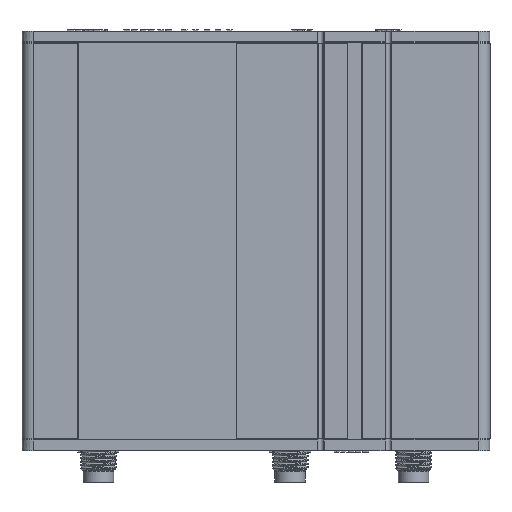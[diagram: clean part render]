
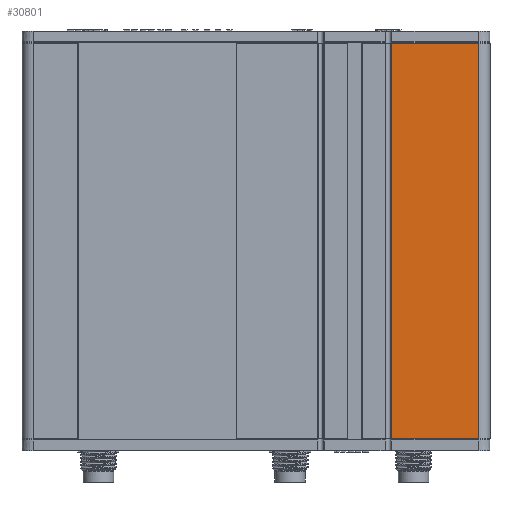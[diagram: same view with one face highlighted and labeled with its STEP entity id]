
A CAD part, front view. The second image highlights one B-rep face of the part: STEP entity #30801.
In plain terms, the highlighted planar face has unit normal (0, -1, 0).
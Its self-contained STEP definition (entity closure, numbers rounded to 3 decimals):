
#2633 = CARTESIAN_POINT ( 'NONE',  ( 65.592, 0., 70.2 ) ) ;
#3630 = PLANE ( 'NONE',  #27765 ) ;
#4103 = DIRECTION ( 'NONE',  ( 0., 0., 1. ) ) ;
#8067 = LINE ( 'NONE', #14534, #26972 ) ;
#9194 = ORIENTED_EDGE ( 'NONE', *, *, #39326, .F. ) ;
#13946 = CARTESIAN_POINT ( 'NONE',  ( 65.592, 0., 0. ) ) ;
#14534 = CARTESIAN_POINT ( 'NONE',  ( 65.592, 0., 70.2 ) ) ;
#14745 = CARTESIAN_POINT ( 'NONE',  ( 60.25, 0., 70.2 ) ) ;
#17039 = EDGE_CURVE ( 'NONE', #60045, #69469, #39321, .T. ) ;
#17741 = EDGE_CURVE ( 'NONE', #69469, #51138, #56352, .T. ) ;
#25323 = VECTOR ( 'NONE', #56357, 1000. ) ;
#25420 = CARTESIAN_POINT ( 'NONE',  ( 81., 0., 70.2 ) ) ;
#26486 = EDGE_CURVE ( 'NONE', #44161, #51138, #65110, .T. ) ;
#26798 = CARTESIAN_POINT ( 'NONE',  ( 81., 0., 70.2 ) ) ;
#26972 = VECTOR ( 'NONE', #64115, 1000. ) ;
#27765 = AXIS2_PLACEMENT_3D ( 'NONE', #14745, #36846, #4103 ) ;
#30801 = ADVANCED_FACE ( 'NONE', ( #45706 ), #3630, .F. ) ;
#32395 = VECTOR ( 'NONE', #53352, 1000. ) ;
#33622 = DIRECTION ( 'NONE',  ( 1., 0., 0. ) ) ;
#34187 = CARTESIAN_POINT ( 'NONE',  ( 81., 0., 70.2 ) ) ;
#36846 = DIRECTION ( 'NONE',  ( 0., 1., 0. ) ) ;
#39321 = LINE ( 'NONE', #25420, #32395 ) ;
#39326 = EDGE_CURVE ( 'NONE', #44161, #60045, #8067, .T. ) ;
#44161 = VERTEX_POINT ( 'NONE', #13946 ) ;
#45706 = FACE_OUTER_BOUND ( 'NONE', #46478, .T. ) ;
#46478 = EDGE_LOOP ( 'NONE', ( #9194, #61034, #47762, #66608 ) ) ;
#47004 = VECTOR ( 'NONE', #33622, 1000. ) ;
#47762 = ORIENTED_EDGE ( 'NONE', *, *, #17741, .F. ) ;
#49743 = CARTESIAN_POINT ( 'NONE',  ( 81., 0., 0. ) ) ;
#51138 = VERTEX_POINT ( 'NONE', #49743 ) ;
#53352 = DIRECTION ( 'NONE',  ( 1., 0., 0. ) ) ;
#56352 = LINE ( 'NONE', #34187, #25323 ) ;
#56357 = DIRECTION ( 'NONE',  ( 0., 0., -1. ) ) ;
#60045 = VERTEX_POINT ( 'NONE', #2633 ) ;
#61034 = ORIENTED_EDGE ( 'NONE', *, *, #26486, .T. ) ;
#64115 = DIRECTION ( 'NONE',  ( 0., 0., 1. ) ) ;
#65110 = LINE ( 'NONE', #71518, #47004 ) ;
#66608 = ORIENTED_EDGE ( 'NONE', *, *, #17039, .F. ) ;
#69469 = VERTEX_POINT ( 'NONE', #26798 ) ;
#71518 = CARTESIAN_POINT ( 'NONE',  ( 60.25, 0., 0. ) ) ;
